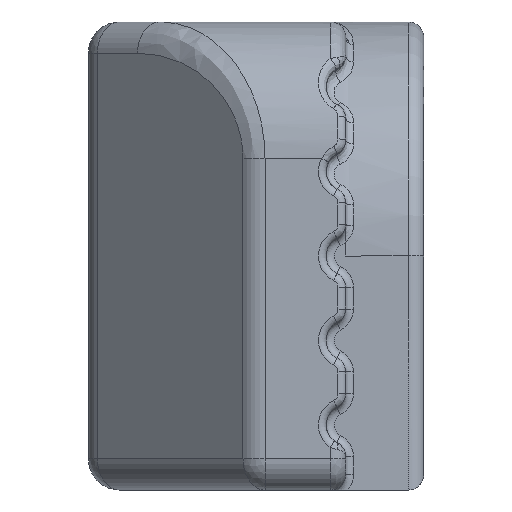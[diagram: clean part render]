
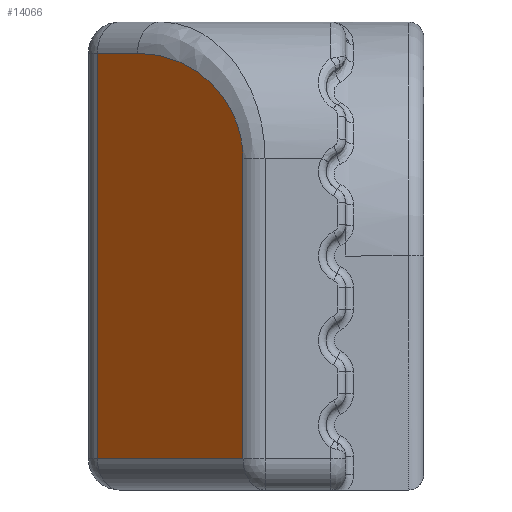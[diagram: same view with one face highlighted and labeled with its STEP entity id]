
A CAD part, left-side view. The second image highlights one B-rep face of the part: STEP entity #14066.
In plain terms, the highlighted planar face has unit normal (-0.707, 0.707, 0).
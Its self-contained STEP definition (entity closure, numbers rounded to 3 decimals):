
#5865 = CYLINDRICAL_SURFACE('',#5866,0.4);
#5866 = AXIS2_PLACEMENT_3D('',#5867,#5868,#5869);
#5867 = CARTESIAN_POINT('',(-3.33,2.355,-2.6));
#5868 = DIRECTION('',(0.707,0.707,0.));
#5869 = DIRECTION('',(-0.5,0.5,-0.707));
#6161 = CYLINDRICAL_SURFACE('',#6162,0.4);
#6162 = AXIS2_PLACEMENT_3D('',#6163,#6164,#6165);
#6163 = CARTESIAN_POINT('',(-5.25,0.434,0.));
#6164 = DIRECTION('',(0.,0.,1.));
#6165 = DIRECTION('',(-0.924,0.383,0.));
#6273 = B_SPLINE_SURFACE_WITH_KNOTS('',3,3,(
    (#6274,#6275,#6276,#6277,#6278)
    ,(#6279,#6280,#6281,#6282,#6283)
    ,(#6284,#6285,#6286,#6287,#6288)
    ,(#6289,#6290,#6291,#6292,#6293)
    ,(#6294,#6295,#6296,#6297,#6298
  )),.UNSPECIFIED.,.F.,.F.,.F.,(4,1,4),(4,1,4),(0.,0.5,1.),(
    0.,0.898,1.571),.UNSPECIFIED.);
#6274 = CARTESIAN_POINT('',(-5.65,0.434,1.25));
#6275 = CARTESIAN_POINT('',(-5.65,0.434,1.774));
#6276 = CARTESIAN_POINT('',(-5.211,0.773,
    2.681));
#6277 = CARTESIAN_POINT('',(-4.293,1.481,3.));
#6278 = CARTESIAN_POINT('',(-3.9,1.784,3.));
#6279 = CARTESIAN_POINT('',(-5.65,0.487,1.25));
#6280 = CARTESIAN_POINT('',(-5.65,0.487,1.758));
#6281 = CARTESIAN_POINT('',(-5.24,0.828,2.64
    ));
#6282 = CARTESIAN_POINT('',(-4.359,1.548,
    2.983));
#6283 = CARTESIAN_POINT('',(-3.974,1.858,3.));
#6284 = CARTESIAN_POINT('',(-5.629,0.591,1.25));
#6285 = CARTESIAN_POINT('',(-5.629,0.591,
    1.72));
#6286 = CARTESIAN_POINT('',(-5.264,0.939,2.537
    ));
#6287 = CARTESIAN_POINT('',(-4.473,1.681,
    2.882));
#6288 = CARTESIAN_POINT('',(-4.122,2.006,2.913)
  );
#6289 = CARTESIAN_POINT('',(-5.57,0.68,1.25));
#6290 = CARTESIAN_POINT('',(-5.57,0.68,
    1.676));
#6291 = CARTESIAN_POINT('',(-5.225,1.025,2.415
    ));
#6292 = CARTESIAN_POINT('',(-4.497,1.752,
    2.694));
#6293 = CARTESIAN_POINT('',(-4.183,2.067,2.705
    ));
#6294 = CARTESIAN_POINT('',(-5.533,0.717,1.25));
#6295 = CARTESIAN_POINT('',(-5.533,0.717,
    1.654));
#6296 = CARTESIAN_POINT('',(-5.194,1.056,
    2.354));
#6297 = CARTESIAN_POINT('',(-4.486,1.764,2.6));
#6298 = CARTESIAN_POINT('',(-4.183,2.067,2.6));
#6921 = CYLINDRICAL_SURFACE('',#6922,0.4);
#6922 = AXIS2_PLACEMENT_3D('',#6923,#6924,#6925);
#6923 = CARTESIAN_POINT('',(-3.33,2.355,2.6));
#6924 = DIRECTION('',(-0.707,-0.707,0.));
#6925 = DIRECTION('',(-0.5,0.5,0.707));
#12980 = CYLINDRICAL_SURFACE('',#12981,0.4);
#12981 = AXIS2_PLACEMENT_3D('',#12982,#12983,#12984);
#12982 = CARTESIAN_POINT('',(-3.384,2.3,0.));
#12983 = DIRECTION('',(0.,0.,1.));
#12984 = DIRECTION('',(-0.383,0.924,0.));
#13531 = VERTEX_POINT('',#13532);
#13532 = CARTESIAN_POINT('',(-3.667,2.583,-2.6));
#13650 = VERTEX_POINT('',#13651);
#13651 = CARTESIAN_POINT('',(-3.667,2.583,2.6));
#13674 = EDGE_CURVE('',#13531,#13650,#13675,.T.);
#13675 = SURFACE_CURVE('',#13676,(#13680,#13687),.PCURVE_S1.);
#13676 = LINE('',#13677,#13678);
#13677 = CARTESIAN_POINT('',(-3.667,2.583,0.));
#13678 = VECTOR('',#13679,1.);
#13679 = DIRECTION('',(0.,0.,1.));
#13680 = PCURVE('',#12980,#13681);
#13681 = DEFINITIONAL_REPRESENTATION('',(#13682),#13686);
#13682 = LINE('',#13683,#13684);
#13683 = CARTESIAN_POINT('',(6.676,0.));
#13684 = VECTOR('',#13685,1.);
#13685 = DIRECTION('',(0.,1.));
#13686 = ( GEOMETRIC_REPRESENTATION_CONTEXT(2) 
PARAMETRIC_REPRESENTATION_CONTEXT() REPRESENTATION_CONTEXT('2D SPACE',''
  ) );
#13687 = PCURVE('',#13688,#13693);
#13688 = PLANE('',#13689);
#13689 = AXIS2_PLACEMENT_3D('',#13690,#13691,#13692);
#13690 = CARTESIAN_POINT('',(-3.55,2.7,0.));
#13691 = DIRECTION('',(-0.707,0.707,0.));
#13692 = DIRECTION('',(-0.707,-0.707,0.));
#13693 = DEFINITIONAL_REPRESENTATION('',(#13694),#13698);
#13694 = LINE('',#13695,#13696);
#13695 = CARTESIAN_POINT('',(0.166,0.));
#13696 = VECTOR('',#13697,1.);
#13697 = DIRECTION('',(0.,1.));
#13698 = ( GEOMETRIC_REPRESENTATION_CONTEXT(2) 
PARAMETRIC_REPRESENTATION_CONTEXT() REPRESENTATION_CONTEXT('2D SPACE',''
  ) );
#13754 = VERTEX_POINT('',#13755);
#13755 = CARTESIAN_POINT('',(-5.533,0.717,-2.6));
#13799 = EDGE_CURVE('',#13754,#13531,#13800,.T.);
#13800 = SURFACE_CURVE('',#13801,(#13805,#13812),.PCURVE_S1.);
#13801 = LINE('',#13802,#13803);
#13802 = CARTESIAN_POINT('',(-3.613,2.638,-2.6));
#13803 = VECTOR('',#13804,1.);
#13804 = DIRECTION('',(0.707,0.707,0.));
#13805 = PCURVE('',#5865,#13806);
#13806 = DEFINITIONAL_REPRESENTATION('',(#13807),#13811);
#13807 = LINE('',#13808,#13809);
#13808 = CARTESIAN_POINT('',(7.069,0.));
#13809 = VECTOR('',#13810,1.);
#13810 = DIRECTION('',(0.,1.));
#13811 = ( GEOMETRIC_REPRESENTATION_CONTEXT(2) 
PARAMETRIC_REPRESENTATION_CONTEXT() REPRESENTATION_CONTEXT('2D SPACE',''
  ) );
#13812 = PCURVE('',#13688,#13813);
#13813 = DEFINITIONAL_REPRESENTATION('',(#13814),#13818);
#13814 = LINE('',#13815,#13816);
#13815 = CARTESIAN_POINT('',(0.088,-2.6));
#13816 = VECTOR('',#13817,1.);
#13817 = DIRECTION('',(-1.,0.));
#13818 = ( GEOMETRIC_REPRESENTATION_CONTEXT(2) 
PARAMETRIC_REPRESENTATION_CONTEXT() REPRESENTATION_CONTEXT('2D SPACE',''
  ) );
#14022 = EDGE_CURVE('',#13650,#14023,#14025,.T.);
#14023 = VERTEX_POINT('',#14024);
#14024 = CARTESIAN_POINT('',(-4.183,2.067,2.6));
#14025 = SURFACE_CURVE('',#14026,(#14030,#14037),.PCURVE_S1.);
#14026 = LINE('',#14027,#14028);
#14027 = CARTESIAN_POINT('',(-3.613,2.638,2.6));
#14028 = VECTOR('',#14029,1.);
#14029 = DIRECTION('',(-0.707,-0.707,0.));
#14030 = PCURVE('',#6921,#14031);
#14031 = DEFINITIONAL_REPRESENTATION('',(#14032),#14036);
#14032 = LINE('',#14033,#14034);
#14033 = CARTESIAN_POINT('',(0.785,0.));
#14034 = VECTOR('',#14035,1.);
#14035 = DIRECTION('',(0.,1.));
#14036 = ( GEOMETRIC_REPRESENTATION_CONTEXT(2) 
PARAMETRIC_REPRESENTATION_CONTEXT() REPRESENTATION_CONTEXT('2D SPACE',''
  ) );
#14037 = PCURVE('',#13688,#14038);
#14038 = DEFINITIONAL_REPRESENTATION('',(#14039),#14043);
#14039 = LINE('',#14040,#14041);
#14040 = CARTESIAN_POINT('',(0.088,2.6));
#14041 = VECTOR('',#14042,1.);
#14042 = DIRECTION('',(1.,0.));
#14043 = ( GEOMETRIC_REPRESENTATION_CONTEXT(2) 
PARAMETRIC_REPRESENTATION_CONTEXT() REPRESENTATION_CONTEXT('2D SPACE',''
  ) );
#14066 = ADVANCED_FACE('',(#14067),#13688,.T.);
#14067 = FACE_BOUND('',#14068,.T.);
#14068 = EDGE_LOOP('',(#14069,#14070,#14071,#14094,#14120));
#14069 = ORIENTED_EDGE('',*,*,#13674,.F.);
#14070 = ORIENTED_EDGE('',*,*,#13799,.F.);
#14071 = ORIENTED_EDGE('',*,*,#14072,.F.);
#14072 = EDGE_CURVE('',#14073,#13754,#14075,.T.);
#14073 = VERTEX_POINT('',#14074);
#14074 = CARTESIAN_POINT('',(-5.533,0.717,1.25));
#14075 = SURFACE_CURVE('',#14076,(#14080,#14087),.PCURVE_S1.);
#14076 = LINE('',#14077,#14078);
#14077 = CARTESIAN_POINT('',(-5.533,0.717,0.));
#14078 = VECTOR('',#14079,1.);
#14079 = DIRECTION('',(0.,0.,-1.));
#14080 = PCURVE('',#13688,#14081);
#14081 = DEFINITIONAL_REPRESENTATION('',(#14082),#14086);
#14082 = LINE('',#14083,#14084);
#14083 = CARTESIAN_POINT('',(2.804,0.));
#14084 = VECTOR('',#14085,1.);
#14085 = DIRECTION('',(-0.,-1.));
#14086 = ( GEOMETRIC_REPRESENTATION_CONTEXT(2) 
PARAMETRIC_REPRESENTATION_CONTEXT() REPRESENTATION_CONTEXT('2D SPACE',''
  ) );
#14087 = PCURVE('',#6161,#14088);
#14088 = DEFINITIONAL_REPRESENTATION('',(#14089),#14093);
#14089 = LINE('',#14090,#14091);
#14090 = CARTESIAN_POINT('',(-0.393,0.));
#14091 = VECTOR('',#14092,1.);
#14092 = DIRECTION('',(0.,-1.));
#14093 = ( GEOMETRIC_REPRESENTATION_CONTEXT(2) 
PARAMETRIC_REPRESENTATION_CONTEXT() REPRESENTATION_CONTEXT('2D SPACE',''
  ) );
#14094 = ORIENTED_EDGE('',*,*,#14095,.F.);
#14095 = EDGE_CURVE('',#14023,#14073,#14096,.T.);
#14096 = SURFACE_CURVE('',#14097,(#14102,#14113),.PCURVE_S1.);
#14097 = ELLIPSE('',#14098,1.909,1.35);
#14098 = AXIS2_PLACEMENT_3D('',#14099,#14100,#14101);
#14099 = CARTESIAN_POINT('',(-4.183,2.067,1.25));
#14100 = DIRECTION('',(0.707,-0.707,0.));
#14101 = DIRECTION('',(-0.707,-0.707,
    0.));
#14102 = PCURVE('',#13688,#14103);
#14103 = DEFINITIONAL_REPRESENTATION('',(#14104),#14112);
#14104 = ( BOUNDED_CURVE() B_SPLINE_CURVE(2,(#14105,#14106,#14107,#14108
    ,#14109,#14110,#14111),.UNSPECIFIED.,.T.,.F.) 
B_SPLINE_CURVE_WITH_KNOTS((1,2,2,2,2,1),(-2.094,0.,
    2.094,4.189,6.283,8.378),
.UNSPECIFIED.) CURVE() GEOMETRIC_REPRESENTATION_ITEM() 
RATIONAL_B_SPLINE_CURVE((1.,0.5,1.,0.5,1.,0.5,1.)) REPRESENTATION_ITEM(
  '') );
#14105 = CARTESIAN_POINT('',(2.804,1.25));
#14106 = CARTESIAN_POINT('',(2.804,-1.088));
#14107 = CARTESIAN_POINT('',(-0.06,0.081));
#14108 = CARTESIAN_POINT('',(-2.923,1.25));
#14109 = CARTESIAN_POINT('',(-0.06,2.419));
#14110 = CARTESIAN_POINT('',(2.804,3.588));
#14111 = CARTESIAN_POINT('',(2.804,1.25));
#14112 = ( GEOMETRIC_REPRESENTATION_CONTEXT(2) 
PARAMETRIC_REPRESENTATION_CONTEXT() REPRESENTATION_CONTEXT('2D SPACE',''
  ) );
#14113 = PCURVE('',#6273,#14114);
#14114 = DEFINITIONAL_REPRESENTATION('',(#14115),#14119);
#14115 = LINE('',#14116,#14117);
#14116 = CARTESIAN_POINT('',(1.,6.283));
#14117 = VECTOR('',#14118,1.);
#14118 = DIRECTION('',(0.,-1.));
#14119 = ( GEOMETRIC_REPRESENTATION_CONTEXT(2) 
PARAMETRIC_REPRESENTATION_CONTEXT() REPRESENTATION_CONTEXT('2D SPACE',''
  ) );
#14120 = ORIENTED_EDGE('',*,*,#14022,.F.);
